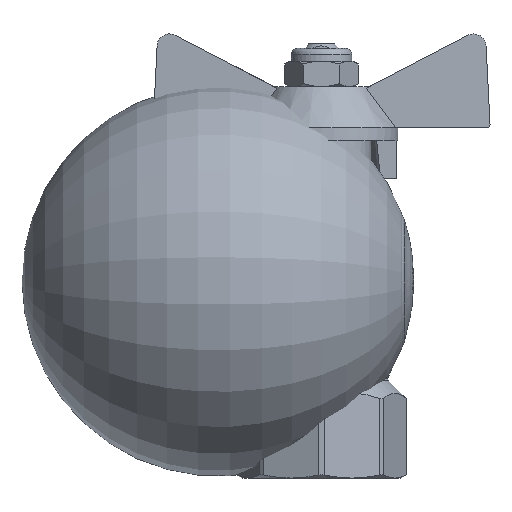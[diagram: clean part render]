
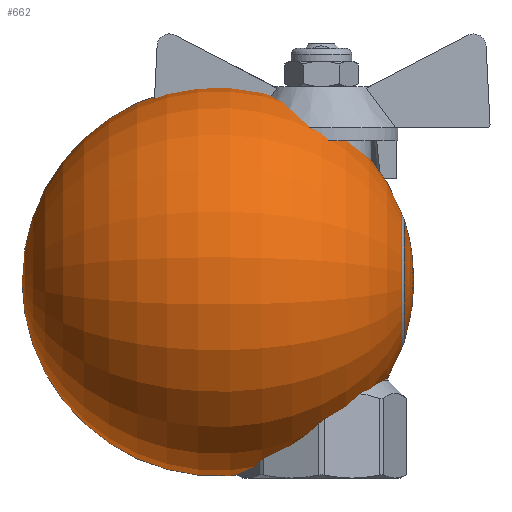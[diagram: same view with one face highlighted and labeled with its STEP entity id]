
A CAD part, left-side view. The second image highlights one B-rep face of the part: STEP entity #662.
In plain terms, the highlighted toroidal (fillet/blend) face has major radius 0.1 mm and minor radius 30.8 mm.
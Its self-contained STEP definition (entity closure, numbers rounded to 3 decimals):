
#662=ADVANCED_FACE('',(#5835),#5837,.T.);
#5835=FACE_BOUND('',#5836,.T.);
#5836=EDGE_LOOP('',(#10985,#10986));
#5837=DEGENERATE_TOROIDAL_SURFACE('',#5838,0.1,30.8,.T.);
#5838=AXIS2_PLACEMENT_3D('',#5839,#5840,#5841);
#5839=CARTESIAN_POINT('',(0.,16.3,0.));
#5840=DIRECTION('',(0.,1.,0.));
#5841=DIRECTION('',(0.,0.,1.));
#10985=ORIENTED_EDGE('',*,*,#13308,.T.);
#10986=ORIENTED_EDGE('',*,*,#13310,.T.);
#13308=EDGE_CURVE('',#16233,#16231,#16234,.T.);
#13310=EDGE_CURVE('',#16231,#16233,#16236,.T.);
#16231=VERTEX_POINT('',#27881);
#16233=VERTEX_POINT('',#27886);
#16234=CIRCLE('',#27887,9.642);
#16236=CIRCLE('',#27895,9.642);
#27881=CARTESIAN_POINT('',(0.,-12.985,9.642));
#27886=CARTESIAN_POINT('',(9.642,-12.985,0.));
#27887=AXIS2_PLACEMENT_3D('',#27888,#27889,#27890);
#27888=CARTESIAN_POINT('',(0.,-12.985,0.));
#27889=DIRECTION('',(0.,-1.,0.));
#27890=DIRECTION('',(1.,0.,0.));
#27895=AXIS2_PLACEMENT_3D('',#27896,#27897,#27898);
#27896=CARTESIAN_POINT('',(0.,-12.985,0.));
#27897=DIRECTION('',(0.,-1.,0.));
#27898=DIRECTION('',(0.,0.,1.));
